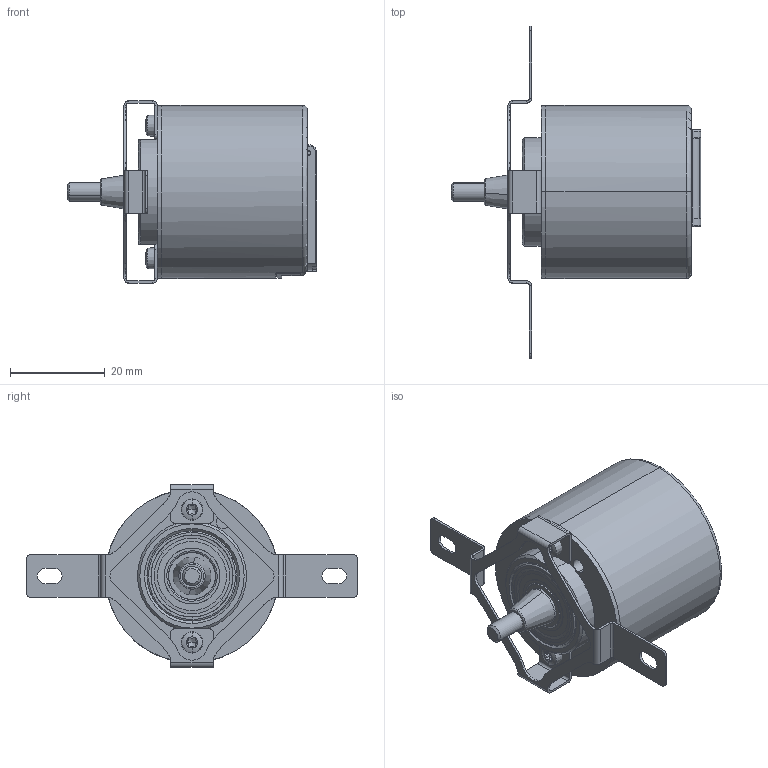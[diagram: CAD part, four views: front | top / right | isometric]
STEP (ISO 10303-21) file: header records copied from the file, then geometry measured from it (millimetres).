
FILE_DESCRIPTION (( 'STEP AP214' ), '1' );
FILE_NAME ('Z_S36X4.42X1.XXXX_2_Motor-Feedback-System.STEP', '2019-08-02T08:27:53', ( '' ), ( '' ), 'SwSTEP 2.0', 'SolidWorks 2017', '' );
FILE_SCHEMA (( 'AUTOMOTIVE_DESIGN' ));
Length unit declared in the file: millimetre
Products named in the file (1): Z_S36X4.42X1.XXXX_2_Motor-Feedback-System
Bounding box: 52.7 x 70 x 38.5 mm (x, y, z)
Surface area: 11685.2 mm2 (no closed solid volume)
Topology: 0 solids, 18 shells, 367 faces, 1292 edges, 931 vertices
Faces by surface type: plane 161, cylinder 149, cone 38, torus 18, bspline 1
Entity records: 18628 total; most frequent: CARTESIAN_POINT 3425, DIRECTION 2389, ORIENTED_EDGE 2125, EDGE_CURVE 1288, VERTEX_POINT 931, AXIS2_PLACEMENT_3D 841, VECTOR 707, LINE 707
